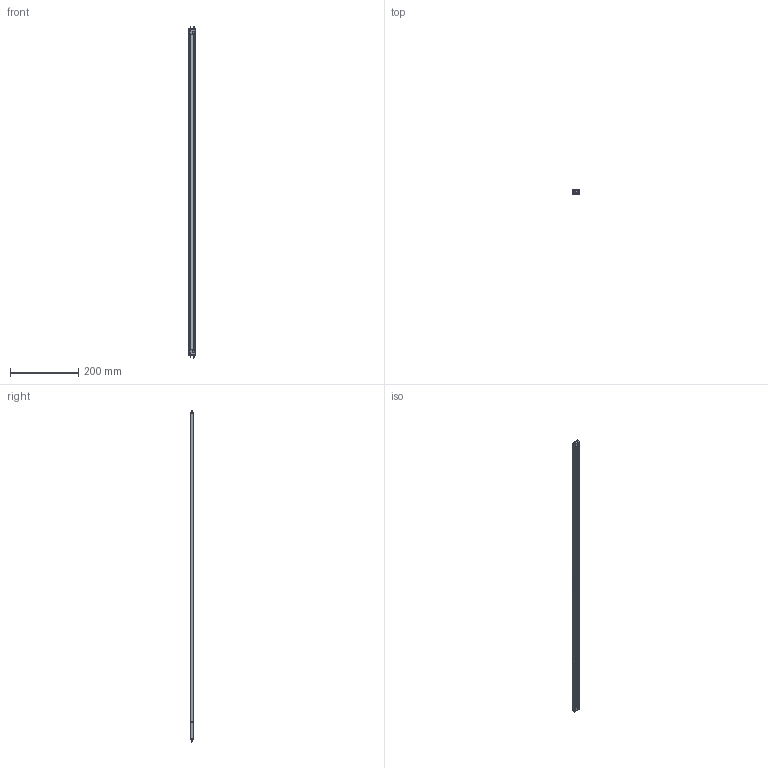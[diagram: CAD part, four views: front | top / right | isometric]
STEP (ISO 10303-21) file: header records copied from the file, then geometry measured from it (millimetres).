
FILE_DESCRIPTION (( 'STEP AP214' ), '1' );
FILE_NAME ('2000519 Kiton EDC 961 mm.STEP', '2022-11-14T07:22:16', ( '' ), ( '' ), 'SwSTEP 2.0', 'SolidWorks 2021', '' );
FILE_SCHEMA (( 'AUTOMOTIVE_DESIGN' ));
Length unit declared in the file: millimetre
Products named in the file (11): SUPPORTO TESTATA_SUPPORTO TESTATA DX; SENSORE PROG. PROXIMITY; TESTATA_TESTATA DX; STRIP REEL 180 LED METRO 5.25mm; 2000519 Kiton EDC 961 mm; SUPPORTO TESTATA_SUPPORTO TESTATA SX; sheet metal screws_din_Tapping screw DIN 7049-ST2.2x9.5-C-H-C; 6201093 Konsole rechts_961 mm; VITE TS TORX 2x6; 6201094 PROFILO LAMPADA_961 mm; TESTATA_TESTATA SX
Assembly tree (20 placements, depth 2):
  2000519 Kiton EDC 961 mm
    6201094 PROFILO LAMPADA_961 mm
    6201093 Konsole rechts_961 mm
    TESTATA_TESTATA DX
    TESTATA_TESTATA SX
    SUPPORTO TESTATA_SUPPORTO TESTATA DX
    SUPPORTO TESTATA_SUPPORTO TESTATA SX
    SENSORE PROG. PROXIMITY  x2
    STRIP REEL 180 LED METRO 5.25mm  x7
    sheet metal screws_din_Tapping screw DIN 7049-ST2.2x9.5-C-H-C  x4
    VITE TS TORX 2x6
Bounding box: 22.2 x 11.46 x 974.26 mm (x, y, z)
Volume: 106740.1 mm3; surface area: 150430.4 mm2
Topology: 20 solids, 20 shells, 1637 faces, 4482 edges, 2975 vertices
Faces by surface type: plane 1206, cylinder 317, bspline 83, cone 15, sphere 12, torus 4
Entity records: 40450 total; most frequent: CARTESIAN_POINT 13968, ORIENTED_EDGE 5342, DIRECTION 4299, EDGE_CURVE 2671, LINE 2003, VECTOR 2003, VERTEX_POINT 1774, AXIS2_PLACEMENT_3D 1148
